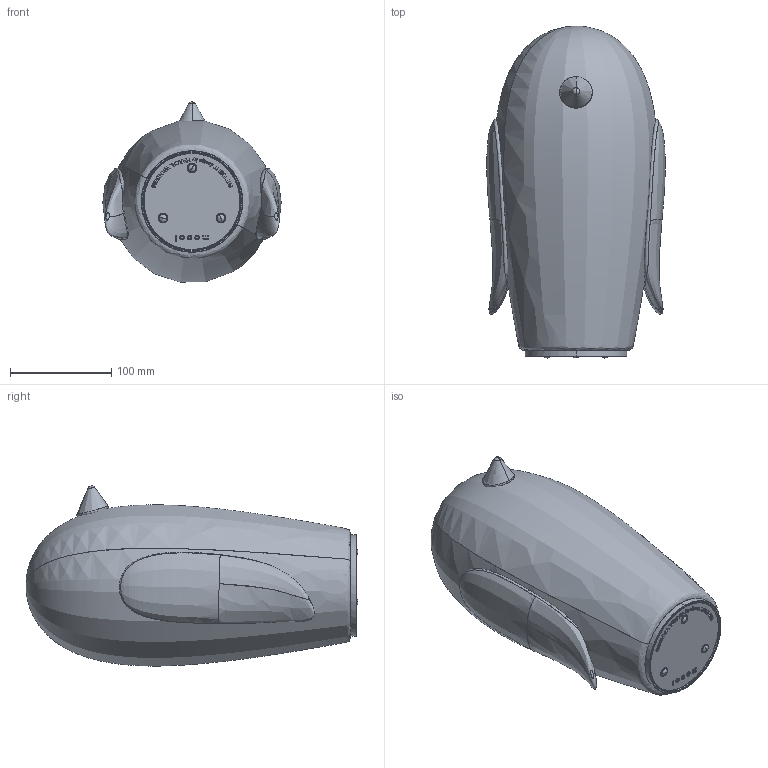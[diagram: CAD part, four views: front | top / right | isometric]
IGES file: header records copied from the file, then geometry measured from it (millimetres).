
Start section: SolidWorks IGES file using analytic representation for surfaces
Global section: file name: C:\Moooi\Project\LI_Lighting Decorative\LI135 Animal lamps\11_Export\A000659_Creations file__04-05-2018.igs; native system: SolidWorks 2017; preprocessor: SolidWorks 2017; author: tessakoppers; date: 180504.104736; units: millimetre
Bounding box: 176.25 x 327.91 x 177.92 mm (x, y, z)
Surface area: 197342.7 mm2 (no closed solid volume)
Topology: 0 solids, 0 shells, 249 faces, 3450 edges, 3442 vertices
Faces by surface type: bspline 223, revolution 26
